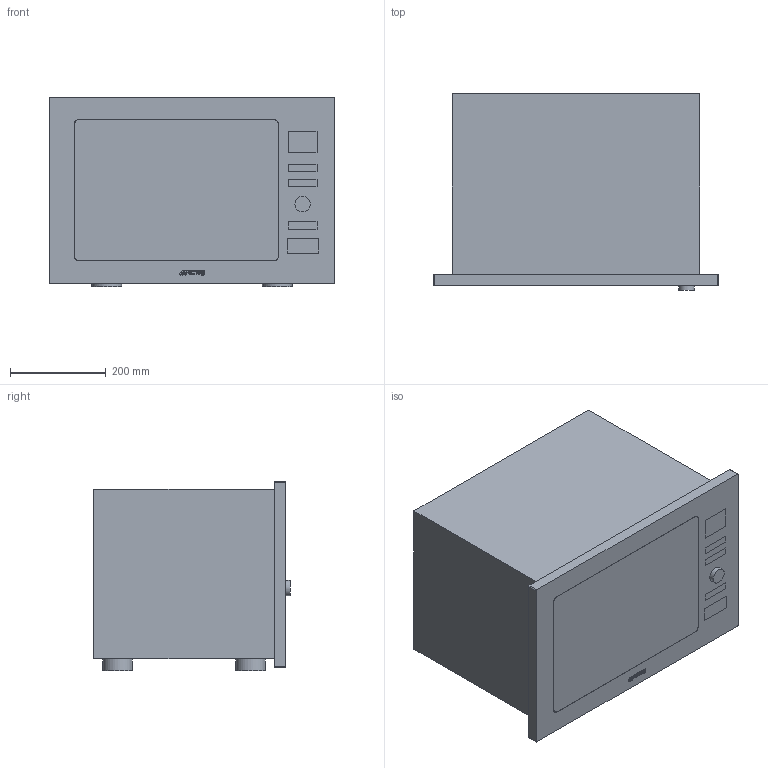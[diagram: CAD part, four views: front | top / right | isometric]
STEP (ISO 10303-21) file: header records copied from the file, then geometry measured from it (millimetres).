
FILE_DESCRIPTION(/* description */ (''),/* implementation_level */ '2;1');
FILE_NAME(/* name */ 'forno fmi425x.stp',/* time_stamp */ '2018-07-26T12:22:41+02:00',/* author */ (''),/* organization */ (''),/* preprocessor_version */ 'ST-DEVELOPER v16',/* originating_system */ 'SIEMENS PLM Software NX 11.0',/* authorisation */ '');
FILE_SCHEMA (('AUTOMOTIVE_DESIGN { 1 0 10303 214 3 1 1 1 }'));
Length unit declared in the file: millimetre
Products named in the file (1): gobb1B3C90CFgok4
Bounding box: 595 x 410 x 395.5 mm (x, y, z)
Volume: 71747955.2 mm3; surface area: 1602532.5 mm2
Topology: 19 solids, 19 shells, 154 faces, 333 edges, 222 vertices
Faces by surface type: plane 105, cylinder 38, extrusion 11
Full cylindrical faces by diameter (mm): 4.608 x6, 25 x1, 32 x1, 62 x4
Entity records: 4502 total; most frequent: CARTESIAN_POINT 1000, DIRECTION 672, ORIENTED_EDGE 640, EDGE_CURVE 320, VECTOR 232, VERTEX_POINT 222, LINE 221, AXIS2_PLACEMENT_3D 220
